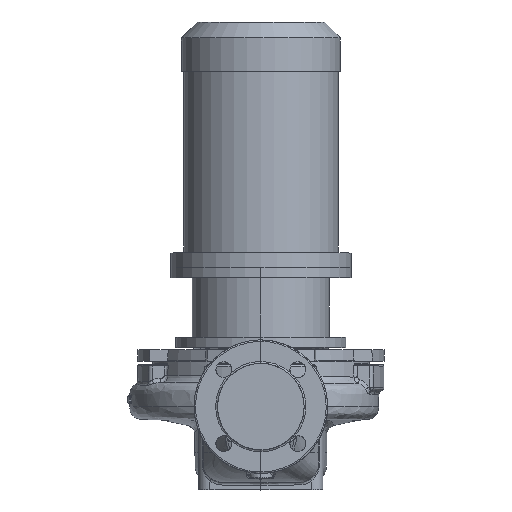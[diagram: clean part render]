
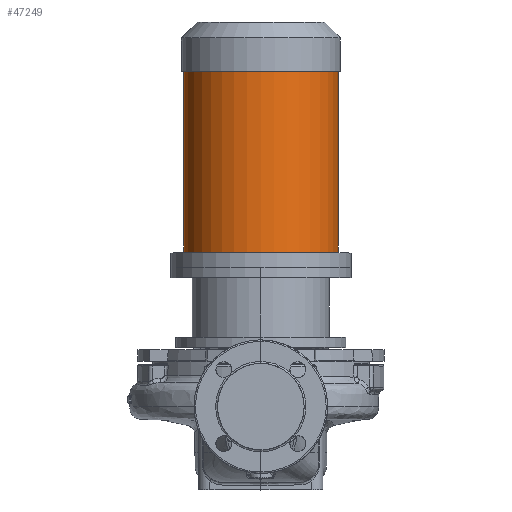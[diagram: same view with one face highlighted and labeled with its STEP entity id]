
A CAD part, top view. The second image highlights one B-rep face of the part: STEP entity #47249.
In plain terms, the highlighted cylindrical face has radius 107 mm (diameter 214 mm), a partial arc.
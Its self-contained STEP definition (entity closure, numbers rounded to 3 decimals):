
#970 = ORIENTED_EDGE ( 'NONE', *, *, #27708, .T. ) ;
#2806 = CARTESIAN_POINT ( 'NONE',  ( 107., 193.3, 0. ) ) ;
#4615 = CARTESIAN_POINT ( 'NONE',  ( 107., 465.3, 0. ) ) ;
#6960 = DIRECTION ( 'NONE',  ( -1., 0., 0. ) ) ;
#8479 = AXIS2_PLACEMENT_3D ( 'NONE', #23969, #39583, #29175 ) ;
#9591 = ORIENTED_EDGE ( 'NONE', *, *, #44547, .F. ) ;
#10069 = CARTESIAN_POINT ( 'NONE',  ( -107., 213.3, 0. ) ) ;
#11140 = DIRECTION ( 'NONE',  ( 0., -1., 0. ) ) ;
#11507 = LINE ( 'NONE', #2806, #57817 ) ;
#14569 = VECTOR ( 'NONE', #11140, 1000. ) ;
#20582 = CARTESIAN_POINT ( 'NONE',  ( 0., 193.3, 0. ) ) ;
#20922 = CARTESIAN_POINT ( 'NONE',  ( -107., 193.3, 0. ) ) ;
#21141 = EDGE_CURVE ( 'NONE', #40411, #65256, #41341, .T. ) ;
#21896 = AXIS2_PLACEMENT_3D ( 'NONE', #32816, #32588, #6960 ) ;
#23476 = DIRECTION ( 'NONE',  ( 0., -1., 0. ) ) ;
#23969 = CARTESIAN_POINT ( 'NONE',  ( 0., 465.3, 0. ) ) ;
#26746 = AXIS2_PLACEMENT_3D ( 'NONE', #20582, #57299, #47932 ) ;
#26859 = VERTEX_POINT ( 'NONE', #4615 ) ;
#27708 = EDGE_CURVE ( 'NONE', #26859, #40411, #48599, .T. ) ;
#28040 = CIRCLE ( 'NONE', #21896, 107. ) ;
#29175 = DIRECTION ( 'NONE',  ( -1., 0., 0. ) ) ;
#32519 = EDGE_LOOP ( 'NONE', ( #38241, #970, #37792, #9591 ) ) ;
#32588 = DIRECTION ( 'NONE',  ( 0., -1., 0. ) ) ;
#32816 = CARTESIAN_POINT ( 'NONE',  ( 0., 213.3, 0. ) ) ;
#37792 = ORIENTED_EDGE ( 'NONE', *, *, #21141, .T. ) ;
#38241 = ORIENTED_EDGE ( 'NONE', *, *, #57936, .F. ) ;
#39583 = DIRECTION ( 'NONE',  ( 0., -1., 0. ) ) ;
#40411 = VERTEX_POINT ( 'NONE', #66835 ) ;
#41341 = LINE ( 'NONE', #20922, #14569 ) ;
#44547 = EDGE_CURVE ( 'NONE', #66434, #65256, #28040, .T. ) ;
#47249 = ADVANCED_FACE ( 'NONE', ( #62735 ), #64359, .T. ) ;
#47932 = DIRECTION ( 'NONE',  ( -1., 0., 0. ) ) ;
#48599 = CIRCLE ( 'NONE', #8479, 107. ) ;
#57299 = DIRECTION ( 'NONE',  ( 0., -1., 0. ) ) ;
#57817 = VECTOR ( 'NONE', #23476, 1000. ) ;
#57936 = EDGE_CURVE ( 'NONE', #26859, #66434, #11507, .T. ) ;
#62735 = FACE_OUTER_BOUND ( 'NONE', #32519, .T. ) ;
#62979 = CARTESIAN_POINT ( 'NONE',  ( 107., 213.3, 0. ) ) ;
#64359 = CYLINDRICAL_SURFACE ( 'NONE', #26746, 107. ) ;
#65256 = VERTEX_POINT ( 'NONE', #10069 ) ;
#66434 = VERTEX_POINT ( 'NONE', #62979 ) ;
#66835 = CARTESIAN_POINT ( 'NONE',  ( -107., 465.3, 0. ) ) ;
